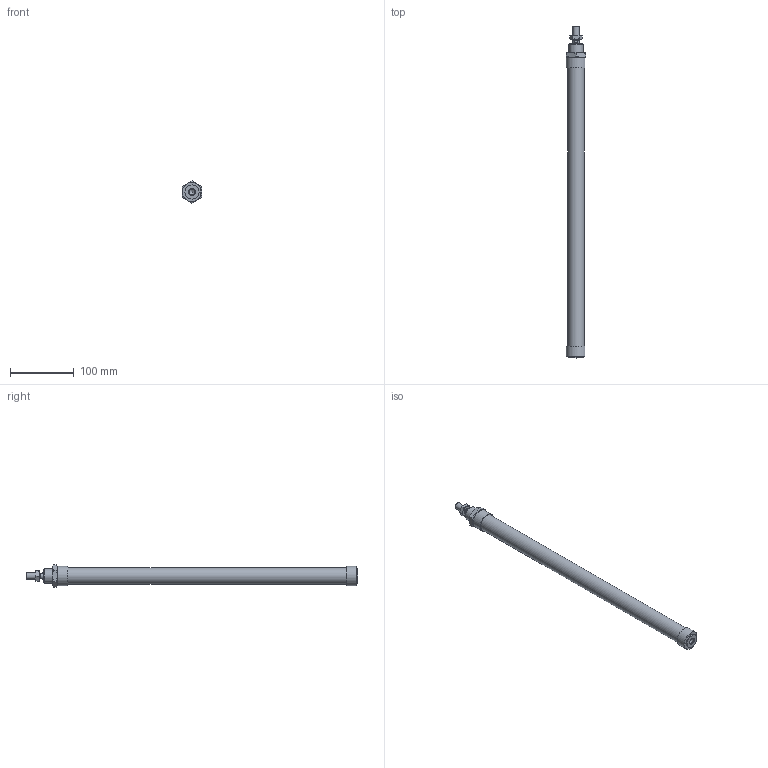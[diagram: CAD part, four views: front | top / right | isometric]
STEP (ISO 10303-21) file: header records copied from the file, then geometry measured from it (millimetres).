
FILE_DESCRIPTION((''),'2;1');
FILE_NAME('I:\Area Tecnica\Disegni\VARIE-3D\Componenti\1280\1281_##_####_#\1281_25_0400.iam.stp','2009-06-04T09:40:45',(''),(''),'Autodesk Inventor 2010','Autodesk Inventor 2010','');
FILE_SCHEMA(('AUTOMOTIVE_DESIGN { 1 0 10303 214 1 1 1 1 }'));
Length unit declared in the file: millimetre
Products named in the file (5): 1281_25_0400; C1281_25_400; S1280_25_400; 1200_25_05; 1200_25_06
Assembly tree (4 placements, depth 2):
  1281_25_0400
    C1281_25_400
    S1280_25_400
    1200_25_05
    1200_25_06
Bounding box: 30 x 520.5 x 34.64 mm (x, y, z)
Volume: 276358.1 mm3; surface area: 74583.1 mm2
Topology: 4 solids, 4 shells, 86 faces, 185 edges, 112 vertices
Faces by surface type: plane 36, cone 26, bspline 15, cylinder 9
Full cylindrical faces by diameter (mm): 8.8 x1, 10 x3, 22 x2, 26.5 x1
Entity records: 2529 total; most frequent: CARTESIAN_POINT 690, DIRECTION 332, ORIENTED_EDGE 310, EDGE_CURVE 155, AXIS2_PLACEMENT_3D 148, EDGE_LOOP 120, VERTEX_POINT 103, STYLED_ITEM 90
